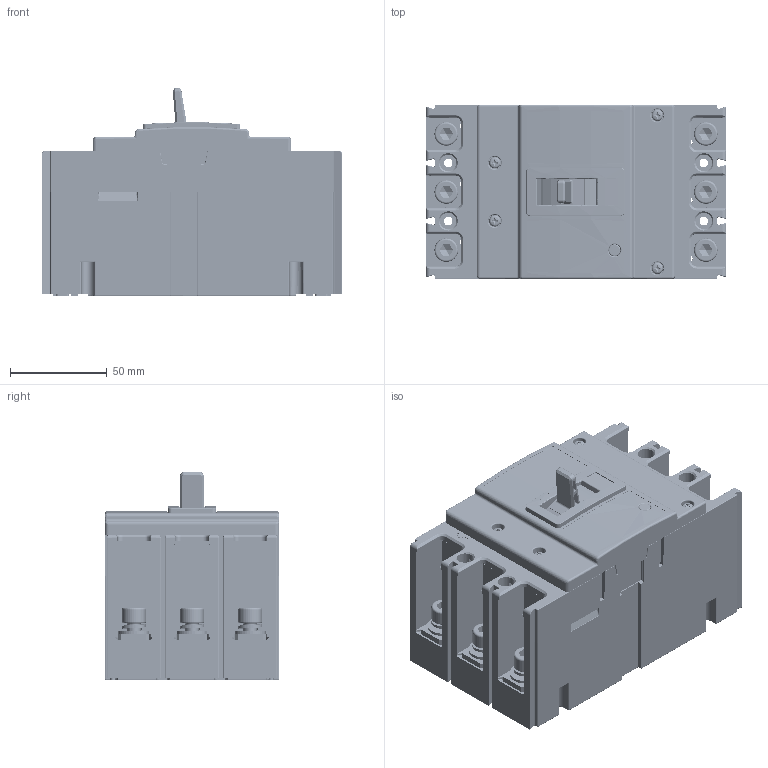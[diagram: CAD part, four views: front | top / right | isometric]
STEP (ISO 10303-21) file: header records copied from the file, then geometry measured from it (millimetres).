
FILE_DESCRIPTION(/* description */ (''),/* implementation_level */ '2;1');
FILE_NAME(/* name */ 'CMM-160M-3P-Drawing-3D.stp',/* time_stamp */ '2025-07-07T18:02:42-03:00',/* author */ ('guilh'),/* organization */ (''),/* preprocessor_version */ 'ST-DEVELOPER v20',/* originating_system */ 'Autodesk Inventor 2024',/* authorisation */ '');
FILE_SCHEMA (('AUTOMOTIVE_DESIGN { 1 0 10303 214 3 1 1 }'));
Products named in the file (24): YCM8-160M-3P-Drawing-3D; YCM8-160M-3P-Drawing-3D.sldasm-Part-1; YCM8-160M-3P-Drawing-3D.sldasm-Part-2; YCM8-160M-3P-Drawing-3D.sldasm-Part-3; YCM8-160M-3P-Drawing-3D.sldasm-Part-4; YCM8-160M-3P-Drawing-3D.sldasm-Part-5; YCM8-160M-3P-Drawing-3D.sldasm-Part-6; YCM8-160M-3P-Drawing-3D.sldasm-Part-7; YCM8-160M-3P-Drawing-3D.sldasm-Part-8; YCM8-160M-3P-Drawing-3D.sldasm-Part-9; YCM8-160M-3P-Drawing-3D.sldasm-Part-10; YCM8-160M-3P-Drawing-3D.sldasm-Part-11; YCM8-160M-3P-Drawing-3D.sldasm-Part-12; YCM8-160M-3P-Drawing-3D.sldasm-Part-13; YCM8-160M-3P-Drawing-3D.sldasm-Part-14; YCM8-160M-3P-Drawing-3D.sldasm-Part-15; YCM8-160M-3P-Drawing-3D.sldasm-Part-16; YCM8-160M-3P-Drawing-3D.sldasm-Part-17; YCM8-160M-3P-Drawing-3D.sldasm-Part-18; YCM8-160M-3P-Drawing-3D.sldasm-Part-19; YCM8-160M-3P-Drawing-3D.sldasm-Part-20; YCM8-160M-3P-Drawing-3D.sldasm-Part-21; YCM8-160M-3P-Drawing-3D.sldasm-Part-22; YCM8-160M-3P-Drawing-3D.sldasm-Part-23
Assembly tree (55 placements, depth 2):
  YCM8-160M-3P-Drawing-3D
    YCM8-160M-3P-Drawing-3D.sldasm-Part-1
    YCM8-160M-3P-Drawing-3D.sldasm-Part-2
    YCM8-160M-3P-Drawing-3D.sldasm-Part-3
    YCM8-160M-3P-Drawing-3D.sldasm-Part-4  x6
    YCM8-160M-3P-Drawing-3D.sldasm-Part-5  x6
    YCM8-160M-3P-Drawing-3D.sldasm-Part-6  x6
    YCM8-160M-3P-Drawing-3D.sldasm-Part-7  x6
    YCM8-160M-3P-Drawing-3D.sldasm-Part-8  x2
    YCM8-160M-3P-Drawing-3D.sldasm-Part-9  x2
    YCM8-160M-3P-Drawing-3D.sldasm-Part-10
    YCM8-160M-3P-Drawing-3D.sldasm-Part-11
    YCM8-160M-3P-Drawing-3D.sldasm-Part-12
    YCM8-160M-3P-Drawing-3D.sldasm-Part-13  x3
    YCM8-160M-3P-Drawing-3D.sldasm-Part-14  x3
    YCM8-160M-3P-Drawing-3D.sldasm-Part-15  x3
    YCM8-160M-3P-Drawing-3D.sldasm-Part-16
    YCM8-160M-3P-Drawing-3D.sldasm-Part-17
    YCM8-160M-3P-Drawing-3D.sldasm-Part-18
    YCM8-160M-3P-Drawing-3D.sldasm-Part-19
    YCM8-160M-3P-Drawing-3D.sldasm-Part-20
    YCM8-160M-3P-Drawing-3D.sldasm-Part-21
    YCM8-160M-3P-Drawing-3D.sldasm-Part-22  x3
    YCM8-160M-3P-Drawing-3D.sldasm-Part-23  x3
Bounding box: 155 x 90 x 107.6 mm (x, y, z)
Volume: 409396.7 mm3; surface area: 290568.4 mm2
Topology: 55 solids, 56 shells, 4455 faces, 12241 edges, 7937 vertices
Faces by surface type: plane 2620, cylinder 1380, bspline 181, torus 144, cone 82, sphere 48
Full cylindrical faces by diameter (mm): 2 x1, 2.5 x103, 2.659 x6, 2.8 x3, 3 x112, 3.2 x8, 3.5 x9, 3.7 x2, 3.8 x6, 4 x12, 4.2 x3, 4.5 x7, 4.6 x12, 5.5 x1, 5.85 x4, 5.9 x2, 6 x2, 6.2 x4, 6.4 x4, 6.5 x4, 6.6 x1, 6.75 x54, 7 x10, 7.05 x1, 7.5 x6, 8 x58, 8.5 x10, 8.6 x4, 9 x3, 9.8 x6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
Entity records: 160578 total; most frequent: CARTESIAN_POINT 67876, ORIENTED_EDGE 19686, DIRECTION 18309, EDGE_CURVE 9843, LINE 7005, VECTOR 7005, VERTEX_POINT 6392, AXIS2_PLACEMENT_3D 5652
